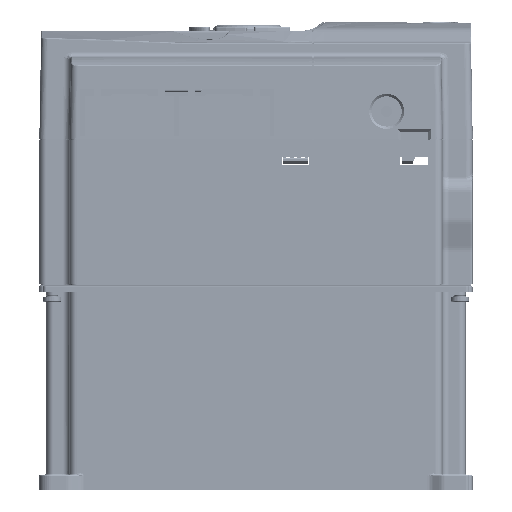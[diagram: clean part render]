
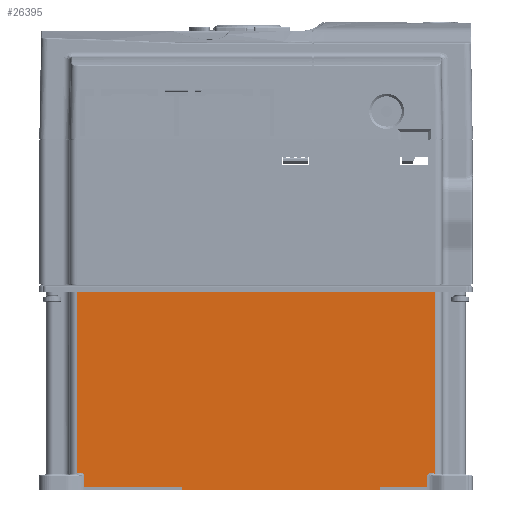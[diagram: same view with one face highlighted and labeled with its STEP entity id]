
A CAD part, left-side view. The second image highlights one B-rep face of the part: STEP entity #26395.
In plain terms, the highlighted planar face has unit normal (-1, 0, 0) as drawn and (1, 0, 0) by its records, which use the part's own axes.
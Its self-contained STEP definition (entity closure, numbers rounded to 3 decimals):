
#85 = VERTEX_POINT('',#86);
#86 = CARTESIAN_POINT('',(60.,74.5,-30.));
#247 = VERTEX_POINT('',#248);
#248 = CARTESIAN_POINT('',(60.,74.5,-71.794));
#255 = EDGE_CURVE('',#85,#247,#256,.T.);
#256 = LINE('',#257,#258);
#257 = CARTESIAN_POINT('',(60.,74.5,-30.));
#258 = VECTOR('',#259,1.);
#259 = DIRECTION('',(0.,0.,-1.));
#449 = VERTEX_POINT('',#450);
#450 = CARTESIAN_POINT('',(60.,74.5,55.));
#456 = EDGE_CURVE('',#457,#449,#459,.T.);
#457 = VERTEX_POINT('',#458);
#458 = CARTESIAN_POINT('',(60.,74.5,75.434));
#459 = LINE('',#460,#461);
#460 = CARTESIAN_POINT('',(60.,74.5,75.434));
#461 = VECTOR('',#462,1.);
#462 = DIRECTION('',(0.,0.,-1.));
#1612 = EDGE_CURVE('',#85,#1613,#1615,.T.);
#1613 = VERTEX_POINT('',#1614);
#1614 = CARTESIAN_POINT('',(60.,76.,-30.));
#1615 = LINE('',#1616,#1617);
#1616 = CARTESIAN_POINT('',(60.,74.5,-30.));
#1617 = VECTOR('',#1618,1.);
#1618 = DIRECTION('',(0.,1.,0.));
#1719 = EDGE_CURVE('',#1720,#1613,#1722,.T.);
#1720 = VERTEX_POINT('',#1721);
#1721 = CARTESIAN_POINT('',(60.,76.,55.));
#1722 = LINE('',#1723,#1724);
#1723 = CARTESIAN_POINT('',(60.,76.,55.));
#1724 = VECTOR('',#1725,1.);
#1725 = DIRECTION('',(0.,0.,-1.));
#3616 = VERTEX_POINT('',#3617);
#3617 = CARTESIAN_POINT('',(60.,69.,78.819));
#3643 = VERTEX_POINT('',#3644);
#3644 = CARTESIAN_POINT('',(60.,69.,78.624));
#3651 = EDGE_CURVE('',#3643,#3616,#3652,.T.);
#3652 = LINE('',#3653,#3654);
#3653 = CARTESIAN_POINT('',(60.,69.,78.624));
#3654 = VECTOR('',#3655,1.);
#3655 = DIRECTION('',(0.,0.,1.));
#3668 = VERTEX_POINT('',#3669);
#3669 = CARTESIAN_POINT('',(60.,70.,75.434));
#3676 = EDGE_CURVE('',#3643,#3668,#3677,.T.);
#3677 = B_SPLINE_CURVE_WITH_KNOTS('',3,(#3678,#3679,#3680,#3681,#3682,
    #3683,#3684,#3685,#3686,#3687,#3688,#3689,#3690,#3691,#3692,#3693,
    #3694,#3695,#3696,#3697,#3698,#3699,#3700,#3701,#3702,#3703,#3704,
    #3705,#3706,#3707,#3708,#3709,#3710),.UNSPECIFIED.,.F.,.F.,(4,1,1,1,
    1,1,1,1,1,1,1,1,1,1,1,1,1,1,1,1,1,1,1,1,1,1,1,1,1,1,4),(0.,
    0.033,0.067,0.1,0.133,
    0.167,0.2,0.233,0.267,0.3,0.333,
    0.367,0.4,0.433,0.467,0.5,0.533,
    0.567,0.6,0.633,0.667,0.7,0.733,
    0.767,0.8,0.833,0.867,0.9,0.933,
    0.967,1.),.UNSPECIFIED.);
#3678 = CARTESIAN_POINT('',(60.,69.,78.624));
#3679 = CARTESIAN_POINT('',(60.,69.,78.613
    ));
#3680 = CARTESIAN_POINT('',(60.,68.998,78.588
    ));
#3681 = CARTESIAN_POINT('',(60.,68.988,78.548
    ));
#3682 = CARTESIAN_POINT('',(60.,68.971,78.503
    ));
#3683 = CARTESIAN_POINT('',(60.,68.948,78.455)
  );
#3684 = CARTESIAN_POINT('',(60.,68.92,78.404));
#3685 = CARTESIAN_POINT('',(60.,68.887,78.349));
#3686 = CARTESIAN_POINT('',(60.,68.852,78.289));
#3687 = CARTESIAN_POINT('',(60.,68.812,78.223));
#3688 = CARTESIAN_POINT('',(60.,68.77,78.149));
#3689 = CARTESIAN_POINT('',(60.,68.725,78.067));
#3690 = CARTESIAN_POINT('',(60.,68.678,77.972));
#3691 = CARTESIAN_POINT('',(60.,68.631,77.865));
#3692 = CARTESIAN_POINT('',(60.,68.585,77.74));
#3693 = CARTESIAN_POINT('',(60.,68.542,77.596));
#3694 = CARTESIAN_POINT('',(60.,68.508,77.43));
#3695 = CARTESIAN_POINT('',(60.,68.487,77.231));
#3696 = CARTESIAN_POINT('',(60.,68.49,77.03));
#3697 = CARTESIAN_POINT('',(60.,68.515,76.834));
#3698 = CARTESIAN_POINT('',(60.,68.561,76.642));
#3699 = CARTESIAN_POINT('',(60.,68.628,76.457));
#3700 = CARTESIAN_POINT('',(60.,68.716,76.279));
#3701 = CARTESIAN_POINT('',(60.,68.825,76.111));
#3702 = CARTESIAN_POINT('',(60.,68.954,75.954));
#3703 = CARTESIAN_POINT('',(60.,69.1,75.811));
#3704 = CARTESIAN_POINT('',(60.,69.262,75.685));
#3705 = CARTESIAN_POINT('',(60.,69.427,75.584));
#3706 = CARTESIAN_POINT('',(60.,69.583,75.512
    ));
#3707 = CARTESIAN_POINT('',(60.,69.725,75.466
    ));
#3708 = CARTESIAN_POINT('',(60.,69.86,75.44
    ));
#3709 = CARTESIAN_POINT('',(60.,69.953,75.434
    ));
#3710 = CARTESIAN_POINT('',(60.,70.,75.434));
#4177 = EDGE_CURVE('',#3668,#457,#4178,.T.);
#4178 = LINE('',#4179,#4180);
#4179 = CARTESIAN_POINT('',(60.,70.,75.434));
#4180 = VECTOR('',#4181,1.);
#4181 = DIRECTION('',(0.,1.,0.));
#8423 = VERTEX_POINT('',#8424);
#8424 = CARTESIAN_POINT('',(60.,-8.8,78.819));
#8431 = EDGE_CURVE('',#8423,#8432,#8434,.T.);
#8432 = VERTEX_POINT('',#8433);
#8433 = CARTESIAN_POINT('',(60.,-8.8,-75.181));
#8434 = LINE('',#8435,#8436);
#8435 = CARTESIAN_POINT('',(60.,-8.8,78.819));
#8436 = VECTOR('',#8437,1.);
#8437 = DIRECTION('',(0.,0.,-1.));
#25916 = EDGE_CURVE('',#25917,#25919,#25921,.T.);
#25917 = VERTEX_POINT('',#25918);
#25918 = CARTESIAN_POINT('',(60.,70.,-71.794));
#25919 = VERTEX_POINT('',#25920);
#25920 = CARTESIAN_POINT('',(60.,69.,-74.984));
#25921 = B_SPLINE_CURVE_WITH_KNOTS('',3,(#25922,#25923,#25924,#25925,
    #25926,#25927,#25928,#25929,#25930,#25931,#25932,#25933,#25934,
    #25935,#25936,#25937,#25938,#25939,#25940,#25941,#25942,#25943,
    #25944,#25945,#25946,#25947,#25948,#25949,#25950,#25951,#25952,
    #25953,#25954),.UNSPECIFIED.,.F.,.F.,(4,1,1,1,1,1,1,1,1,1,1,1,1,1,1,
    1,1,1,1,1,1,1,1,1,1,1,1,1,1,1,4),(0.,0.033,
    0.067,0.1,0.133,0.167,0.2,
    0.233,0.267,0.3,0.333,0.367,0.4,
    0.433,0.467,0.5,0.533,0.567,0.6,
    0.633,0.667,0.7,0.733,0.767,0.8,
    0.833,0.867,0.9,0.933,0.967,1.),
  .UNSPECIFIED.);
#25922 = CARTESIAN_POINT('',(60.,70.,-71.794));
#25923 = CARTESIAN_POINT('',(60.,69.953,
    -71.794));
#25924 = CARTESIAN_POINT('',(60.,69.861,
    -71.8));
#25925 = CARTESIAN_POINT('',(60.,69.725,
    -71.826));
#25926 = CARTESIAN_POINT('',(60.,69.583,
    -71.872));
#25927 = CARTESIAN_POINT('',(60.,69.428,-71.943));
#25928 = CARTESIAN_POINT('',(60.,69.263,-72.044));
#25929 = CARTESIAN_POINT('',(60.,69.101,-72.17));
#25930 = CARTESIAN_POINT('',(60.,68.955,-72.313));
#25931 = CARTESIAN_POINT('',(60.,68.826,-72.47));
#25932 = CARTESIAN_POINT('',(60.,68.717,-72.638));
#25933 = CARTESIAN_POINT('',(60.,68.629,-72.815));
#25934 = CARTESIAN_POINT('',(60.,68.561,-73.));
#25935 = CARTESIAN_POINT('',(60.,68.515,-73.191));
#25936 = CARTESIAN_POINT('',(60.,68.49,-73.387));
#25937 = CARTESIAN_POINT('',(60.,68.487,-73.587));
#25938 = CARTESIAN_POINT('',(60.,68.508,-73.787));
#25939 = CARTESIAN_POINT('',(60.,68.542,-73.954));
#25940 = CARTESIAN_POINT('',(60.,68.584,-74.099));
#25941 = CARTESIAN_POINT('',(60.,68.63,-74.224));
#25942 = CARTESIAN_POINT('',(60.,68.678,-74.332));
#25943 = CARTESIAN_POINT('',(60.,68.725,-74.426));
#25944 = CARTESIAN_POINT('',(60.,68.77,-74.509));
#25945 = CARTESIAN_POINT('',(60.,68.812,-74.583));
#25946 = CARTESIAN_POINT('',(60.,68.852,-74.649));
#25947 = CARTESIAN_POINT('',(60.,68.888,-74.709));
#25948 = CARTESIAN_POINT('',(60.,68.92,-74.765));
#25949 = CARTESIAN_POINT('',(60.,68.948,
    -74.816));
#25950 = CARTESIAN_POINT('',(60.,68.971,
    -74.863));
#25951 = CARTESIAN_POINT('',(60.,68.988,
    -74.908));
#25952 = CARTESIAN_POINT('',(60.,68.998,
    -74.948));
#25953 = CARTESIAN_POINT('',(60.,69.,
    -74.973));
#25954 = CARTESIAN_POINT('',(60.,69.,-74.984));
#26395 = ADVANCED_FACE('',(#26396),#26439,.T.);
#26396 = FACE_BOUND('',#26397,.F.);
#26397 = EDGE_LOOP('',(#26398,#26404,#26405,#26413,#26419,#26420,#26426,
    #26427,#26428,#26429,#26430,#26436,#26437,#26438));
#26398 = ORIENTED_EDGE('',*,*,#26399,.T.);
#26399 = EDGE_CURVE('',#247,#25917,#26400,.T.);
#26400 = LINE('',#26401,#26402);
#26401 = CARTESIAN_POINT('',(60.,74.5,-71.794));
#26402 = VECTOR('',#26403,1.);
#26403 = DIRECTION('',(0.,-1.,0.));
#26404 = ORIENTED_EDGE('',*,*,#25916,.T.);
#26405 = ORIENTED_EDGE('',*,*,#26406,.F.);
#26406 = EDGE_CURVE('',#26407,#25919,#26409,.T.);
#26407 = VERTEX_POINT('',#26408);
#26408 = CARTESIAN_POINT('',(60.,69.,-75.181));
#26409 = LINE('',#26410,#26411);
#26410 = CARTESIAN_POINT('',(60.,69.,-75.181));
#26411 = VECTOR('',#26412,1.);
#26412 = DIRECTION('',(0.,0.,1.));
#26413 = ORIENTED_EDGE('',*,*,#26414,.T.);
#26414 = EDGE_CURVE('',#26407,#8432,#26415,.T.);
#26415 = LINE('',#26416,#26417);
#26416 = CARTESIAN_POINT('',(60.,69.,-75.181));
#26417 = VECTOR('',#26418,1.);
#26418 = DIRECTION('',(0.,-1.,0.));
#26419 = ORIENTED_EDGE('',*,*,#8431,.F.);
#26420 = ORIENTED_EDGE('',*,*,#26421,.F.);
#26421 = EDGE_CURVE('',#3616,#8423,#26422,.T.);
#26422 = LINE('',#26423,#26424);
#26423 = CARTESIAN_POINT('',(60.,69.,78.819));
#26424 = VECTOR('',#26425,1.);
#26425 = DIRECTION('',(0.,-1.,0.));
#26426 = ORIENTED_EDGE('',*,*,#3651,.F.);
#26427 = ORIENTED_EDGE('',*,*,#3676,.T.);
#26428 = ORIENTED_EDGE('',*,*,#4177,.T.);
#26429 = ORIENTED_EDGE('',*,*,#456,.T.);
#26430 = ORIENTED_EDGE('',*,*,#26431,.T.);
#26431 = EDGE_CURVE('',#449,#1720,#26432,.T.);
#26432 = LINE('',#26433,#26434);
#26433 = CARTESIAN_POINT('',(60.,74.5,55.));
#26434 = VECTOR('',#26435,1.);
#26435 = DIRECTION('',(0.,1.,0.));
#26436 = ORIENTED_EDGE('',*,*,#1719,.T.);
#26437 = ORIENTED_EDGE('',*,*,#1612,.F.);
#26438 = ORIENTED_EDGE('',*,*,#255,.T.);
#26439 = PLANE('',#26440);
#26440 = AXIS2_PLACEMENT_3D('',#26441,#26442,#26443);
#26441 = CARTESIAN_POINT('',(60.,0.,78.819));
#26442 = DIRECTION('',(1.,0.,0.));
#26443 = DIRECTION('',(0.,0.,-1.));
